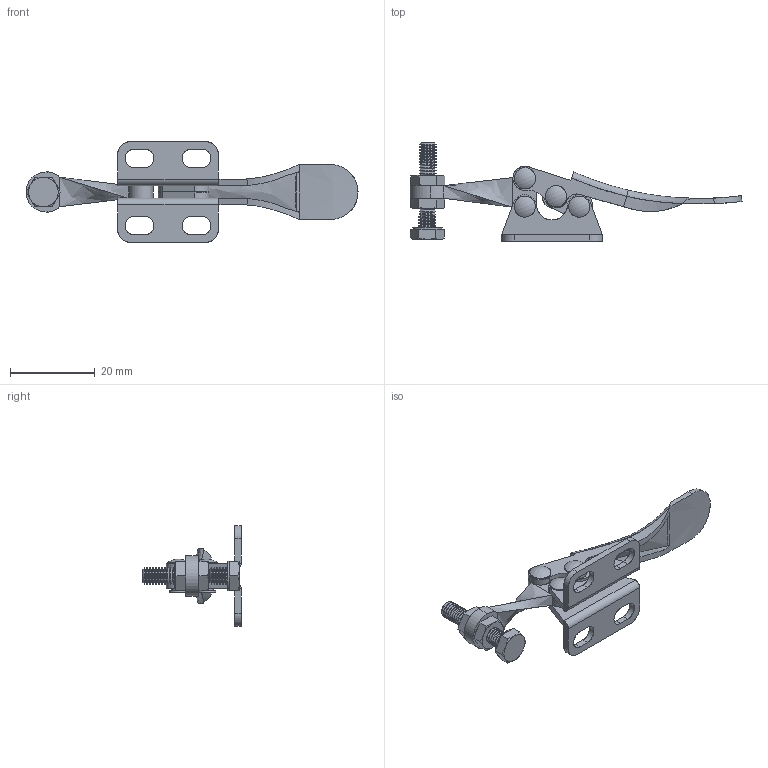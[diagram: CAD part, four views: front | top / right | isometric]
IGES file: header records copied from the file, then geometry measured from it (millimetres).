
Start section: SolidWorks IGES file using analytic representation for surfaces
Global section: file name: \\BARTOP_SV6\share\SOLIDWORKS\工具事業部\坂入用\受け渡し\2015.07.02\ISK-HH1500.IGS; native system: SolidWorks 2015; preprocessor: SolidWorks 2015; author: SOLID02; date: 150702.202847; units: millimetre
Bounding box: 78.47 x 23.24 x 23.8 mm (x, y, z)
Surface area: 5619 mm2 (no closed solid volume)
Topology: 0 solids, 0 shells, 451 faces, 5369 edges, 5369 vertices
Faces by surface type: revolution 318, bspline 133
